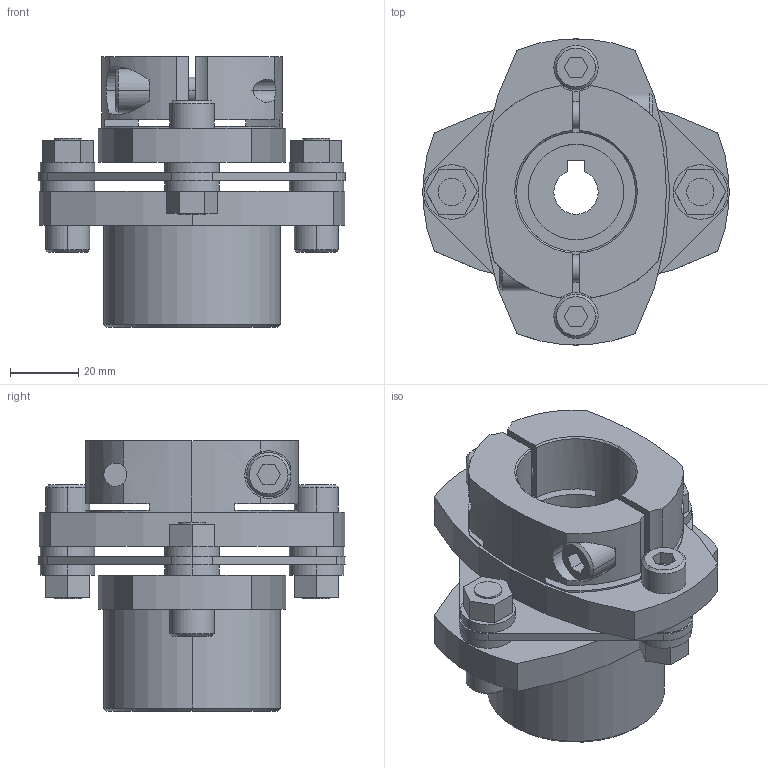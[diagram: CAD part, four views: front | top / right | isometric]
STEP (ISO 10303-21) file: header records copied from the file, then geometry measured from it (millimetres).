
FILE_DESCRIPTION((''),'2;1');
FILE_NAME('LCS-90M-16L亊35B.stp','2011-08-20T16:38:05',(''),(''),'AutoCAD STEP 2000i','AutoCAD 2000i',', , ');
FILE_SCHEMA(('CONFIG_CONTROL_DESIGN'));
Length unit declared in the file: millimetre
Products named in the file (8): LCS-90M-16L×35B; 忣兜1; LC90-B035; LC90-B028; LC90M-L016; LC90-B019-1; LC90-B019; LCS90-ITA
Assembly tree (7 placements, depth 2):
  LCS-90M-16L×35B
    忣兜1
    LC90-B035
    LC90-B028
    LC90M-L016
    LC90-B019-1
    LC90-B019
    LCS90-ITA
Bounding box: 90 x 89.94 x 79.5 mm (x, y, z)
Volume: 182002.7 mm3; surface area: 49241 mm2
Topology: 1 solids, 1 shells, 236 faces, 596 edges, 390 vertices
Faces by surface type: plane 117, cylinder 96, cone 23
Entity records: 7573 total; most frequent: CARTESIAN_POINT 1498, DIRECTION 1292, ORIENTED_EDGE 1192, EDGE_CURVE 596, AXIS2_PLACEMENT_3D 474, VERTEX_POINT 390, VECTOR 344, LINE 344
